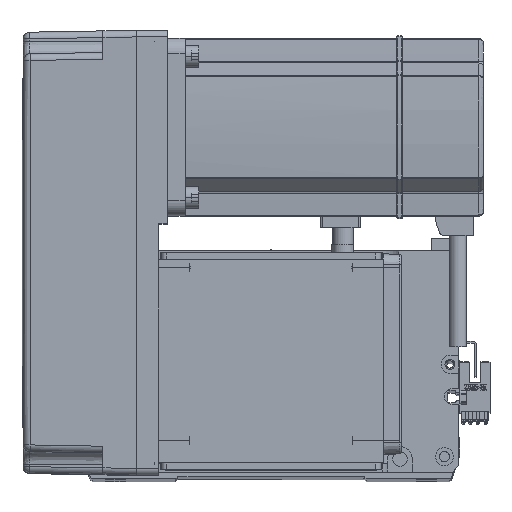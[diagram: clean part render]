
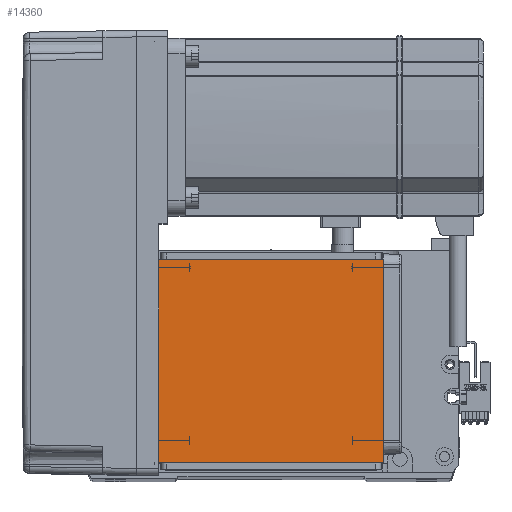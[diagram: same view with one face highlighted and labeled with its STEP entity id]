
A CAD part, top view. The second image highlights one B-rep face of the part: STEP entity #14360.
In plain terms, the highlighted planar face has unit normal (0, 0, 1).
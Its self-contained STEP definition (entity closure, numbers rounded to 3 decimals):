
#40 = EDGE_CURVE ( 'NONE', #35443, #3732, #35338, .T. ) ;
#1140 = CARTESIAN_POINT ( 'NONE',  ( -50.5, 111.5, 115. ) ) ;
#3732 = VERTEX_POINT ( 'NONE', #54948 ) ;
#3895 = ORIENTED_EDGE ( 'NONE', *, *, #40, .T. ) ;
#5369 = DIRECTION ( 'NONE',  ( -1., 0., 0. ) ) ;
#8089 = CARTESIAN_POINT ( 'NONE',  ( -50.5, 20., 115. ) ) ;
#11075 = LINE ( 'NONE', #41379, #38047 ) ;
#13800 = FACE_OUTER_BOUND ( 'NONE', #47436, .T. ) ;
#14192 = VERTEX_POINT ( 'NONE', #1140 ) ;
#14360 = ADVANCED_FACE ( 'NONE', ( #13800 ), #29762, .T. ) ;
#16541 = DIRECTION ( 'NONE',  ( 1., 0., 0. ) ) ;
#17350 = VECTOR ( 'NONE', #20529, 1000. ) ;
#18428 = CARTESIAN_POINT ( 'NONE',  ( -70.004, 20., 115. ) ) ;
#19019 = AXIS2_PLACEMENT_3D ( 'NONE', #34191, #39603, #35333 ) ;
#19880 = VECTOR ( 'NONE', #16541, 1000. ) ;
#20529 = DIRECTION ( 'NONE',  ( 0., 1., 0. ) ) ;
#21353 = EDGE_CURVE ( 'NONE', #14192, #49348, #11075, .T. ) ;
#21366 = VECTOR ( 'NONE', #5369, 1000. ) ;
#27122 = CARTESIAN_POINT ( 'NONE',  ( 50.5, 20., 115. ) ) ;
#29063 = ORIENTED_EDGE ( 'NONE', *, *, #21353, .T. ) ;
#29762 = PLANE ( 'NONE',  #19019 ) ;
#33442 = EDGE_CURVE ( 'NONE', #14192, #3732, #55863, .T. ) ;
#34191 = CARTESIAN_POINT ( 'NONE',  ( 0., 0., 115. ) ) ;
#35333 = DIRECTION ( 'NONE',  ( 1., 0., 0. ) ) ;
#35338 = LINE ( 'NONE', #42564, #17350 ) ;
#35443 = VERTEX_POINT ( 'NONE', #27122 ) ;
#38047 = VECTOR ( 'NONE', #54710, 1000. ) ;
#38616 = CARTESIAN_POINT ( 'NONE',  ( -70.004, 111.5, 115. ) ) ;
#38696 = EDGE_CURVE ( 'NONE', #35443, #49348, #46281, .T. ) ;
#39603 = DIRECTION ( 'NONE',  ( 0., 0., 1. ) ) ;
#41379 = CARTESIAN_POINT ( 'NONE',  ( -50.5, 122., 115. ) ) ;
#42564 = CARTESIAN_POINT ( 'NONE',  ( 50.5, 122., 115. ) ) ;
#46281 = LINE ( 'NONE', #18428, #21366 ) ;
#46729 = ORIENTED_EDGE ( 'NONE', *, *, #33442, .F. ) ;
#47436 = EDGE_LOOP ( 'NONE', ( #46729, #29063, #47529, #3895 ) ) ;
#47529 = ORIENTED_EDGE ( 'NONE', *, *, #38696, .F. ) ;
#49348 = VERTEX_POINT ( 'NONE', #8089 ) ;
#54710 = DIRECTION ( 'NONE',  ( 0., -1., 0. ) ) ;
#54948 = CARTESIAN_POINT ( 'NONE',  ( 50.5, 111.5, 115. ) ) ;
#55863 = LINE ( 'NONE', #38616, #19880 ) ;
